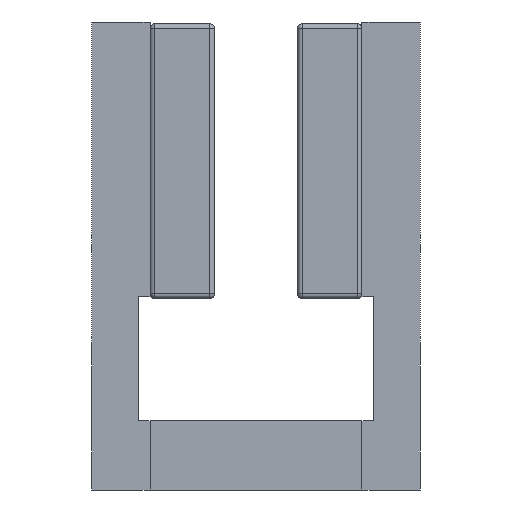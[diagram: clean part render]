
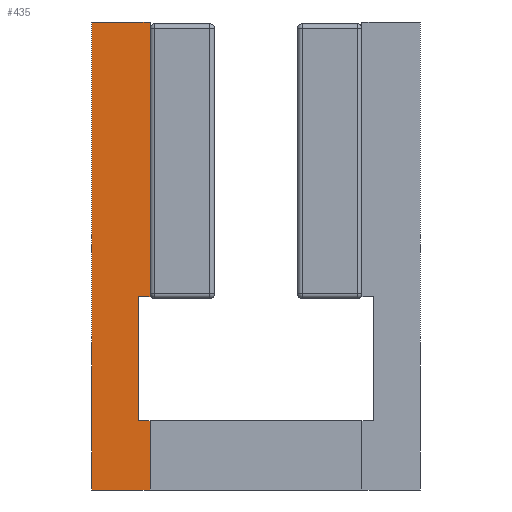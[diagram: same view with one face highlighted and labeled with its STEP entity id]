
A CAD part, front view. The second image highlights one B-rep face of the part: STEP entity #435.
In plain terms, the highlighted planar face has unit normal (0, -1, 0).
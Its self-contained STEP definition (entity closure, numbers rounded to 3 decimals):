
#109 = DIRECTION ( 'NONE',  ( 1., 0., 0. ) ) ;
#378 = DIRECTION ( 'NONE',  ( -1., 0., 0. ) ) ;
#435 = ADVANCED_FACE ( 'Defeatured_0_5', ( #2860 ), #3005, .T. ) ;
#508 = DIRECTION ( 'NONE',  ( -1., 0., 0. ) ) ;
#557 = VERTEX_POINT ( 'NONE', #9714 ) ;
#682 = EDGE_CURVE ( 'Defeatured_0_5+Defeatured_0_6+Defeatured_0_0+Defeatured_0_8', #6606, #10533, #4628, .T. ) ;
#1656 = ORIENTED_EDGE ( 'NONE', *, *, #13249, .T. ) ;
#1758 = CARTESIAN_POINT ( 'NONE',  ( -4.702, -141.89, 18.723 ) ) ;
#2291 = VERTEX_POINT ( 'NONE', #4886 ) ;
#2430 = CARTESIAN_POINT ( 'NONE',  ( -11.052, -141.89, 62.023 ) ) ;
#2496 = EDGE_CURVE ( 'Defeatured_0_2+Defeatured_0_5+Defeatured_0_1+Defeatured_0_3', #7171, #7241, #8313, .T. ) ;
#2557 = LINE ( 'NONE', #7821, #5806 ) ;
#2776 = CARTESIAN_POINT ( 'NONE',  ( -11.052, -141.89, 62.023 ) ) ;
#2828 = LINE ( 'NONE', #2909, #3393 ) ;
#2860 = FACE_OUTER_BOUND ( 'NONE', #3167, .T. ) ;
#2909 = CARTESIAN_POINT ( 'NONE',  ( -4.702, -141.89, 11.223 ) ) ;
#3005 = PLANE ( 'NONE',  #10623 ) ;
#3167 = EDGE_LOOP ( 'NONE', ( #5888, #10644, #8440, #13025, #10770, #5406, #7526, #1656 ) ) ;
#3178 = CARTESIAN_POINT ( 'NONE',  ( -4.702, -141.89, 62.023 ) ) ;
#3182 = LINE ( 'NONE', #1758, #12431 ) ;
#3361 = VECTOR ( 'NONE', #508, 1000. ) ;
#3393 = VECTOR ( 'NONE', #9395, 1000. ) ;
#3699 = VERTEX_POINT ( 'NONE', #12857 ) ;
#3710 = CARTESIAN_POINT ( 'NONE',  ( -4.702, -141.89, 62.023 ) ) ;
#3808 = CARTESIAN_POINT ( 'NONE',  ( -4.702, -141.89, 11.223 ) ) ;
#4135 = DIRECTION ( 'NONE',  ( 0., -1., 0. ) ) ;
#4628 = LINE ( 'NONE', #3710, #3361 ) ;
#4886 = CARTESIAN_POINT ( 'NONE',  ( -4.702, -141.89, 18.723 ) ) ;
#5406 = ORIENTED_EDGE ( 'NONE', *, *, #6064, .T. ) ;
#5528 = DIRECTION ( 'NONE',  ( 1., 0., 0. ) ) ;
#5806 = VECTOR ( 'NONE', #5528, 1000. ) ;
#5888 = ORIENTED_EDGE ( 'NONE', *, *, #11252, .F. ) ;
#6064 = EDGE_CURVE ( 'Defeatured_0_5+Defeatured_0_8+Defeatured_0_6+Defeatured_0_7', #10533, #10940, #8055, .T. ) ;
#6343 = EDGE_CURVE ( 'Defeatured_0_5+Defeatured_0_7+Defeatured_0_8+Defeatured_0_43', #10940, #557, #2557, .T. ) ;
#6606 = VERTEX_POINT ( 'NONE', #3178 ) ;
#6892 = EDGE_CURVE ( 'Defeatured_0_5+Defeatured_0_0+Defeatured_0_1+Defeatured_0_6', #3699, #6606, #13569, .T. ) ;
#7171 = VERTEX_POINT ( 'NONE', #10996 ) ;
#7241 = VERTEX_POINT ( 'NONE', #8014 ) ;
#7526 = ORIENTED_EDGE ( 'NONE', *, *, #6343, .T. ) ;
#7821 = CARTESIAN_POINT ( 'NONE',  ( -11.052, -141.89, 11.223 ) ) ;
#8014 = CARTESIAN_POINT ( 'NONE',  ( -6.002, -141.89, 18.723 ) ) ;
#8055 = LINE ( 'NONE', #2776, #11945 ) ;
#8313 = LINE ( 'NONE', #10517, #11968 ) ;
#8440 = ORIENTED_EDGE ( 'NONE', *, *, #12698, .F. ) ;
#8752 = CARTESIAN_POINT ( 'NONE',  ( -11.052, -141.89, 11.223 ) ) ;
#9071 = VECTOR ( 'NONE', #378, 1000. ) ;
#9310 = DIRECTION ( 'NONE',  ( 0., 0., 1. ) ) ;
#9365 = CARTESIAN_POINT ( 'NONE',  ( -4.702, -141.89, 11.223 ) ) ;
#9395 = DIRECTION ( 'NONE',  ( 0., 0., 1. ) ) ;
#9714 = CARTESIAN_POINT ( 'NONE',  ( -4.702, -141.89, 11.223 ) ) ;
#10399 = DIRECTION ( 'NONE',  ( 0., 0., -1. ) ) ;
#10517 = CARTESIAN_POINT ( 'NONE',  ( -6.002, -141.89, 18.723 ) ) ;
#10533 = VERTEX_POINT ( 'NONE', #2430 ) ;
#10623 = AXIS2_PLACEMENT_3D ( 'NONE', #9365, #4135, #13898 ) ;
#10644 = ORIENTED_EDGE ( 'NONE', *, *, #2496, .F. ) ;
#10770 = ORIENTED_EDGE ( 'NONE', *, *, #682, .T. ) ;
#10940 = VERTEX_POINT ( 'NONE', #8752 ) ;
#10996 = CARTESIAN_POINT ( 'NONE',  ( -6.002, -141.89, 32.223 ) ) ;
#11252 = EDGE_CURVE ( 'Defeatured_0_3+Defeatured_0_5+Defeatured_0_2+Defeatured_0_46', #7241, #2291, #3182, .T. ) ;
#11265 = LINE ( 'NONE', #13480, #9071 ) ;
#11945 = VECTOR ( 'NONE', #10399, 1000. ) ;
#11968 = VECTOR ( 'NONE', #12651, 1000. ) ;
#12431 = VECTOR ( 'NONE', #109, 1000. ) ;
#12637 = VECTOR ( 'NONE', #9310, 1000. ) ;
#12651 = DIRECTION ( 'NONE',  ( 0., 0., -1. ) ) ;
#12698 = EDGE_CURVE ( 'Defeatured_0_1+Defeatured_0_5+Defeatured_0_0+Defeatured_0_2', #3699, #7171, #11265, .T. ) ;
#12857 = CARTESIAN_POINT ( 'NONE',  ( -4.702, -141.89, 32.223 ) ) ;
#13025 = ORIENTED_EDGE ( 'NONE', *, *, #6892, .T. ) ;
#13249 = EDGE_CURVE ( 'Defeatured_0_5+Defeatured_0_43+Defeatured_0_7+Defeatured_0_3', #557, #2291, #2828, .T. ) ;
#13480 = CARTESIAN_POINT ( 'NONE',  ( -4.702, -141.89, 32.223 ) ) ;
#13569 = LINE ( 'NONE', #3808, #12637 ) ;
#13898 = DIRECTION ( 'NONE',  ( 0., 0., 1. ) ) ;
